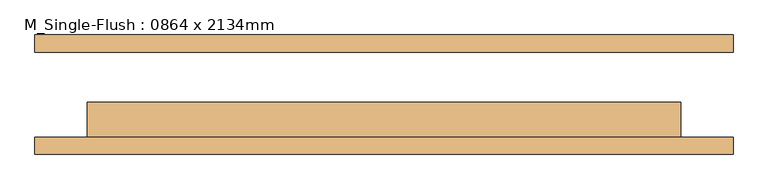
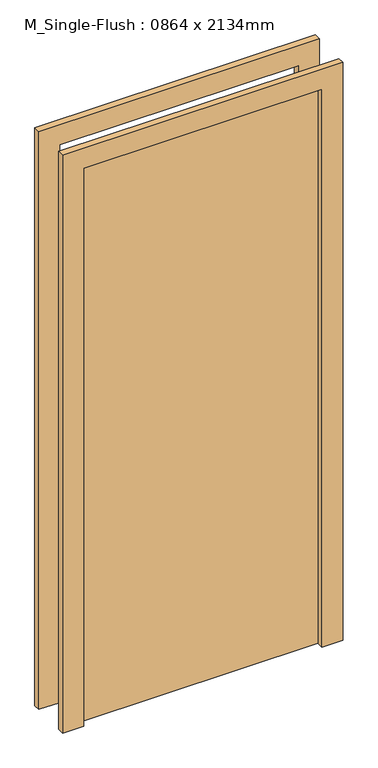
"""IFC4 building model written with IfcOpenShell, lengths in millimetres: door geometry, M_Single-Flush : 0864 x 2134mm."""

from ifc_helpers import new_model, si_unit, frame, origin, origin_with_axes, place, context, project, spatial, polyline, outline, extrude, source, transform, mapped, element, save


def m_single_flush_0864_x_2134mm_c8713c46(model_context):
    return source(origin(), model_context, "Body", "SweptSolid", [
        extrude(outline(polyline([(2210.0, -508.0), (0.0, -508.0), (0.0, -432.0), (2134.0, -432.0), (2134.0, 432.0), (0.0, 432.0), (0.0, 508.0), (2210.0, 508.0), (2210.0, -508.0)])), frame((0.0, -87.0, 0.0), z_axis=(0.0, 1.0, 0.0), x_axis=(0.0, 0.0, 1.0)), (0.0, 0.0, 1.0), 25.0),
        extrude(outline(polyline([(2210.0, 508.0), (2210.0, -508.0), (0.0, -508.0), (0.0, -432.0), (2134.0, -432.0), (2134.0, 432.0), (0.0, 432.0), (0.0, 508.0), (2210.0, 508.0)])), frame((0.0, 62.0, 0.0), z_axis=(0.0, 1.0, 0.0), x_axis=(0.0, 0.0, 1.0)), (0.0, 0.0, 1.0), 25.0),
        extrude(outline(polyline([(432.0, -11.0), (432.0, -62.0), (-432.0, -62.0), (-432.0, -11.0), (432.0, -11.0)])), origin_with_axes(), (0.0, 0.0, 1.0), 2134.0),
    ])


if __name__ == "__main__":
    model = new_model("IFC4")
    model_context = context("Model", 3, world=origin())
    ifc_project = project(units=[si_unit("LENGTHUNIT", "METRE", prefix="MILLI")], contexts=[model_context])
    site = spatial("IfcSite", under=ifc_project)
    building = spatial("IfcBuilding", under=site)
    placement = place(None, origin())
    m_single_flush_0864_x_2134mm_shape = m_single_flush_0864_x_2134mm_c8713c46(model_context)
    element("IfcDoor", 1, ObjectType="M_Single-Flush : 0864 x 2134mm", at=placement, inside=building, context=model_context, shape_type="MappedRepresentation", body=[
        mapped(m_single_flush_0864_x_2134mm_shape, transform((0.0, 0.0, 0.0), x_axis=(1.0, 0.0, 0.0), y_axis=(0.0, 1.0, 0.0), z_axis=(0.0, 0.0, 1.0))),
    ])
    save(model, "model.ifc")
